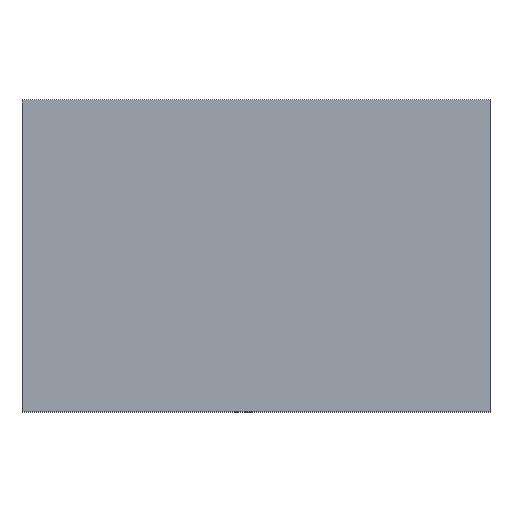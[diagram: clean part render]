
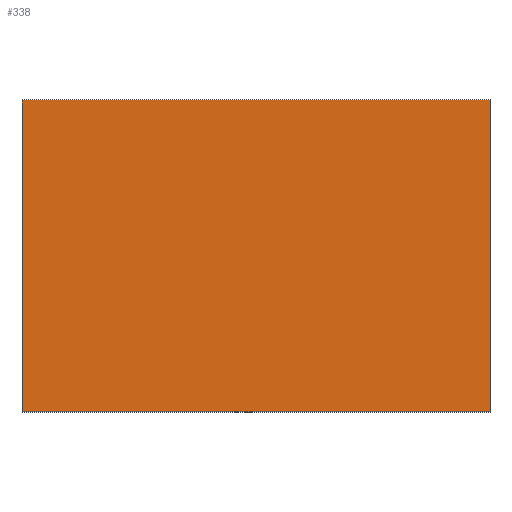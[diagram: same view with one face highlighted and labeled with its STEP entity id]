
A CAD part, top view. The second image highlights one B-rep face of the part: STEP entity #338.
In plain terms, the highlighted planar face has unit normal (0, 0, 1).
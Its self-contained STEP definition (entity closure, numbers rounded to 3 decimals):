
#24 = VERTEX_POINT('',#25);
#25 = CARTESIAN_POINT('',(0.,0.,7.2));
#32 = PLANE('',#33);
#33 = AXIS2_PLACEMENT_3D('',#34,#35,#36);
#34 = CARTESIAN_POINT('',(0.,0.,6.));
#35 = DIRECTION('',(0.,1.,0.));
#36 = DIRECTION('',(1.,0.,0.));
#44 = PLANE('',#45);
#45 = AXIS2_PLACEMENT_3D('',#46,#47,#48);
#46 = CARTESIAN_POINT('',(0.,-40.,6.));
#47 = DIRECTION('',(-1.,0.,0.));
#48 = DIRECTION('',(0.,1.,0.));
#56 = EDGE_CURVE('',#24,#57,#59,.T.);
#57 = VERTEX_POINT('',#58);
#58 = CARTESIAN_POINT('',(60.,0.,7.2));
#59 = SURFACE_CURVE('',#60,(#64,#71),.PCURVE_S1.);
#60 = LINE('',#61,#62);
#61 = CARTESIAN_POINT('',(0.,0.,7.2));
#62 = VECTOR('',#63,1.);
#63 = DIRECTION('',(1.,0.,0.));
#64 = PCURVE('',#32,#65);
#65 = DEFINITIONAL_REPRESENTATION('',(#66),#70);
#66 = LINE('',#67,#68);
#67 = CARTESIAN_POINT('',(0.,-1.2));
#68 = VECTOR('',#69,1.);
#69 = DIRECTION('',(1.,0.));
#70 = ( GEOMETRIC_REPRESENTATION_CONTEXT(2) 
PARAMETRIC_REPRESENTATION_CONTEXT() REPRESENTATION_CONTEXT('2D SPACE',''
  ) );
#71 = PCURVE('',#72,#77);
#72 = PLANE('',#73);
#73 = AXIS2_PLACEMENT_3D('',#74,#75,#76);
#74 = CARTESIAN_POINT('',(30.,-20.,7.2));
#75 = DIRECTION('',(-0.,-0.,-1.));
#76 = DIRECTION('',(-1.,0.,0.));
#77 = DEFINITIONAL_REPRESENTATION('',(#78),#82);
#78 = LINE('',#79,#80);
#79 = CARTESIAN_POINT('',(30.,20.));
#80 = VECTOR('',#81,1.);
#81 = DIRECTION('',(-1.,0.));
#82 = ( GEOMETRIC_REPRESENTATION_CONTEXT(2) 
PARAMETRIC_REPRESENTATION_CONTEXT() REPRESENTATION_CONTEXT('2D SPACE',''
  ) );
#100 = PLANE('',#101);
#101 = AXIS2_PLACEMENT_3D('',#102,#103,#104);
#102 = CARTESIAN_POINT('',(60.,0.,6.));
#103 = DIRECTION('',(1.,0.,0.));
#104 = DIRECTION('',(0.,-1.,0.));
#142 = EDGE_CURVE('',#57,#143,#145,.T.);
#143 = VERTEX_POINT('',#144);
#144 = CARTESIAN_POINT('',(60.,-40.,7.2));
#145 = SURFACE_CURVE('',#146,(#150,#157),.PCURVE_S1.);
#146 = LINE('',#147,#148);
#147 = CARTESIAN_POINT('',(60.,0.,7.2));
#148 = VECTOR('',#149,1.);
#149 = DIRECTION('',(0.,-1.,0.));
#150 = PCURVE('',#100,#151);
#151 = DEFINITIONAL_REPRESENTATION('',(#152),#156);
#152 = LINE('',#153,#154);
#153 = CARTESIAN_POINT('',(0.,-1.2));
#154 = VECTOR('',#155,1.);
#155 = DIRECTION('',(1.,0.));
#156 = ( GEOMETRIC_REPRESENTATION_CONTEXT(2) 
PARAMETRIC_REPRESENTATION_CONTEXT() REPRESENTATION_CONTEXT('2D SPACE',''
  ) );
#157 = PCURVE('',#72,#158);
#158 = DEFINITIONAL_REPRESENTATION('',(#159),#163);
#159 = LINE('',#160,#161);
#160 = CARTESIAN_POINT('',(-30.,20.));
#161 = VECTOR('',#162,1.);
#162 = DIRECTION('',(0.,-1.));
#163 = ( GEOMETRIC_REPRESENTATION_CONTEXT(2) 
PARAMETRIC_REPRESENTATION_CONTEXT() REPRESENTATION_CONTEXT('2D SPACE',''
  ) );
#181 = PLANE('',#182);
#182 = AXIS2_PLACEMENT_3D('',#183,#184,#185);
#183 = CARTESIAN_POINT('',(60.,-40.,6.));
#184 = DIRECTION('',(0.,-1.,0.));
#185 = DIRECTION('',(-1.,0.,0.));
#218 = EDGE_CURVE('',#143,#219,#221,.T.);
#219 = VERTEX_POINT('',#220);
#220 = CARTESIAN_POINT('',(0.,-40.,7.2));
#221 = SURFACE_CURVE('',#222,(#226,#233),.PCURVE_S1.);
#222 = LINE('',#223,#224);
#223 = CARTESIAN_POINT('',(60.,-40.,7.2));
#224 = VECTOR('',#225,1.);
#225 = DIRECTION('',(-1.,0.,0.));
#226 = PCURVE('',#181,#227);
#227 = DEFINITIONAL_REPRESENTATION('',(#228),#232);
#228 = LINE('',#229,#230);
#229 = CARTESIAN_POINT('',(0.,-1.2));
#230 = VECTOR('',#231,1.);
#231 = DIRECTION('',(1.,0.));
#232 = ( GEOMETRIC_REPRESENTATION_CONTEXT(2) 
PARAMETRIC_REPRESENTATION_CONTEXT() REPRESENTATION_CONTEXT('2D SPACE',''
  ) );
#233 = PCURVE('',#72,#234);
#234 = DEFINITIONAL_REPRESENTATION('',(#235),#239);
#235 = LINE('',#236,#237);
#236 = CARTESIAN_POINT('',(-30.,-20.));
#237 = VECTOR('',#238,1.);
#238 = DIRECTION('',(1.,0.));
#239 = ( GEOMETRIC_REPRESENTATION_CONTEXT(2) 
PARAMETRIC_REPRESENTATION_CONTEXT() REPRESENTATION_CONTEXT('2D SPACE',''
  ) );
#289 = EDGE_CURVE('',#219,#24,#290,.T.);
#290 = SURFACE_CURVE('',#291,(#295,#302),.PCURVE_S1.);
#291 = LINE('',#292,#293);
#292 = CARTESIAN_POINT('',(0.,-40.,7.2));
#293 = VECTOR('',#294,1.);
#294 = DIRECTION('',(0.,1.,0.));
#295 = PCURVE('',#44,#296);
#296 = DEFINITIONAL_REPRESENTATION('',(#297),#301);
#297 = LINE('',#298,#299);
#298 = CARTESIAN_POINT('',(0.,-1.2));
#299 = VECTOR('',#300,1.);
#300 = DIRECTION('',(1.,0.));
#301 = ( GEOMETRIC_REPRESENTATION_CONTEXT(2) 
PARAMETRIC_REPRESENTATION_CONTEXT() REPRESENTATION_CONTEXT('2D SPACE',''
  ) );
#302 = PCURVE('',#72,#303);
#303 = DEFINITIONAL_REPRESENTATION('',(#304),#308);
#304 = LINE('',#305,#306);
#305 = CARTESIAN_POINT('',(30.,-20.));
#306 = VECTOR('',#307,1.);
#307 = DIRECTION('',(0.,1.));
#308 = ( GEOMETRIC_REPRESENTATION_CONTEXT(2) 
PARAMETRIC_REPRESENTATION_CONTEXT() REPRESENTATION_CONTEXT('2D SPACE',''
  ) );
#338 = ADVANCED_FACE('',(#339),#72,.F.);
#339 = FACE_BOUND('',#340,.F.);
#340 = EDGE_LOOP('',(#341,#342,#343,#344));
#341 = ORIENTED_EDGE('',*,*,#56,.T.);
#342 = ORIENTED_EDGE('',*,*,#142,.T.);
#343 = ORIENTED_EDGE('',*,*,#218,.T.);
#344 = ORIENTED_EDGE('',*,*,#289,.T.);
